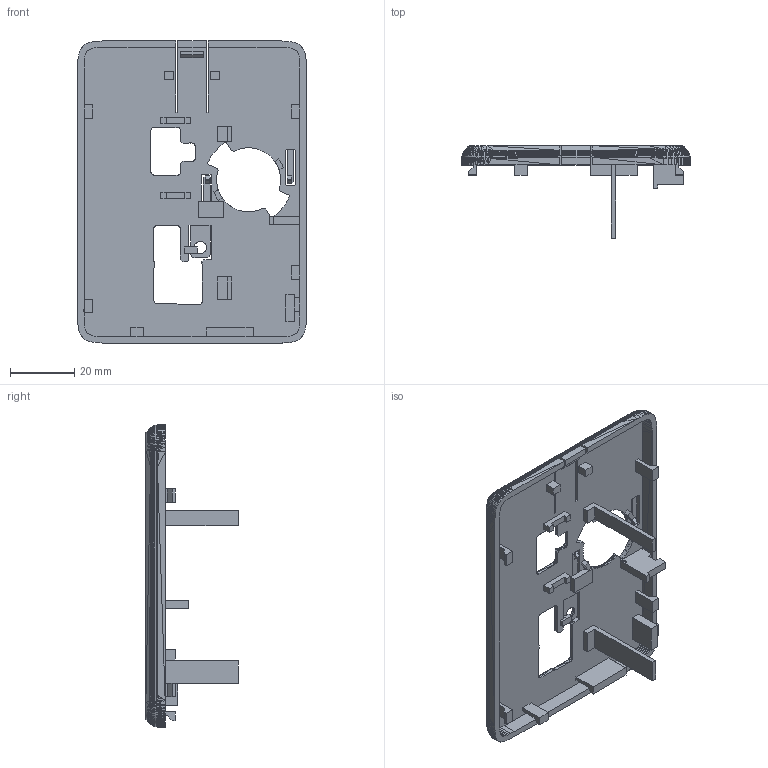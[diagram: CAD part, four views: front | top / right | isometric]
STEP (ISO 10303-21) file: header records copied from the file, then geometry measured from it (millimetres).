
FILE_DESCRIPTION(('Open CASCADE Model'),'2;1');
FILE_NAME('Open CASCADE Shape Model','2026-10-18T11:50:47',('Author'),( 'Open CASCADE'),'Open CASCADE STEP processor 8.0','build123d', 'Unknown');
FILE_SCHEMA(('AUTOMOTIVE_DESIGN { 1 0 10303 214 1 1 1 1 }'));
Products named in the file (1): SOLID
Bounding box: 71.19 x 28.7 x 93.99 mm (x, y, z)
Surface area: 17519.6 mm2 (no closed solid volume)
Topology: 0 solids, 1 shells, 4670 faces, 8483 edges, 3822 vertices
Faces by surface type: plane 4670
Entity records: 208747 total; most frequent: CARTESIAN_POINT 39779, DIRECTION 28914, LINE 19572, VECTOR 19572, ORIENTED_EDGE 16944, PCURVE 16944, DEFINITIONAL_REPRESENTATION 16944, EDGE_CURVE 8485
